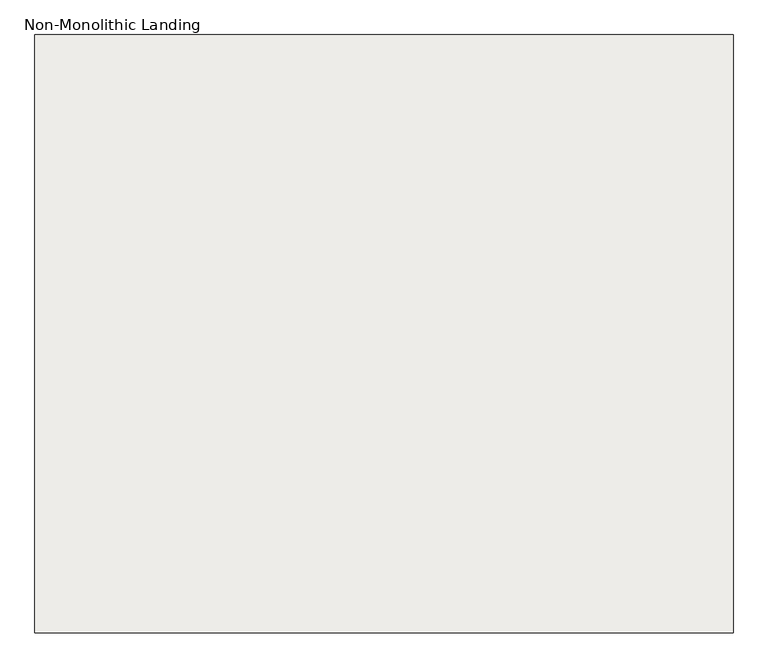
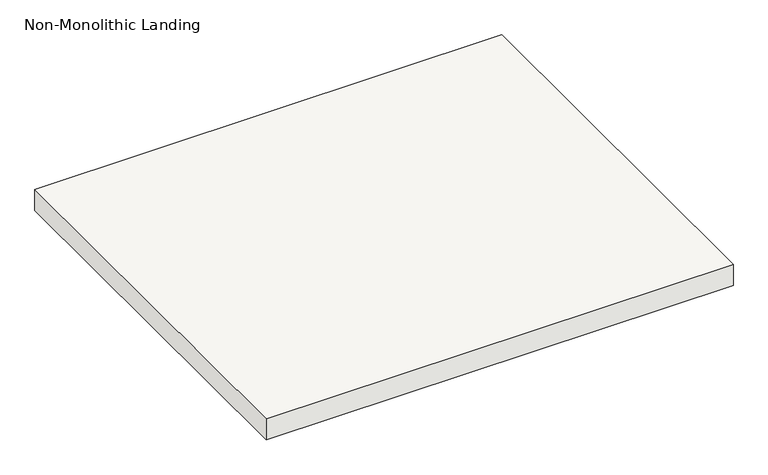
"""IFC4 building model written with IfcOpenShell, lengths in millimetres: slab geometry, Non-Monolithic Landing."""

import ifcopenshell
import ifcopenshell.guid

model = None  # the IFC model being written
_history = None  # IfcOwnerHistory: only IFC2X3 demands one
_inside = {}  # id of a spatial element -> (the spatial element, [elements in it])
_under = {}  # id of a project, library or spatial element -> (it, [spatial elements below it])
_declared = {}  # id of a project -> (the project, [libraries it declares])
_typed = {}  # id of a type object -> (the type object, [elements of that type])
_made_of = {}  # id of a material, layer set ... -> (it, [elements and type objects made of it])


def new_model(schema):
    """Start an empty IFC model of exactly this schema.

    Asked for "IFC4X3", IfcOpenShell would pick the latest addendum, in which some entities
    have other attributes; the version numbers below select the first issue.
    IFC2X3 requires an IfcOwnerHistory on every rooted entity: one is made here for all.
    """
    global model, _history
    if schema == "IFC4X3":
        model = ifcopenshell.file(schema_version=(4, 3, 0, 0))
    else:
        model = ifcopenshell.file(schema=schema)
    _inside.clear()
    _under.clear()
    _declared.clear()
    _typed.clear()
    _made_of.clear()
    _history = None
    if model.schema == "IFC2X3":
        org = make("IfcOrganization", Name="unknown")
        user = make(
            "IfcPersonAndOrganization",
            ThePerson=make("IfcPerson", FamilyName="unknown"),
            TheOrganization=org,
        )
        app = make(
            "IfcApplication",
            ApplicationDeveloper=org,
            Version="unknown",
            ApplicationFullName="unknown",
            ApplicationIdentifier="unknown",
        )
        _history = make(
            "IfcOwnerHistory",
            OwningUser=user,
            OwningApplication=app,
            ChangeAction="ADDED",
            CreationDate=0,
        )
    return model


def make(cls, **values):
    """One entity of the class cls with the attributes given. An attribute that is None is left unset."""
    return model.create_entity(
        cls, **{name: value for name, value in values.items() if value is not None}
    )


def rooted(cls, **values):
    """An entity with a GlobalId (a new one), such as an element, a storey or a relation."""
    return make(cls, GlobalId=ifcopenshell.guid.new(), OwnerHistory=_history, **values)


def si_unit(unit_type, name, prefix=None):
    """IfcSIUnit, for example si_unit("LENGTHUNIT", "METRE", prefix="MILLI")."""
    return make("IfcSIUnit", UnitType=unit_type, Prefix=prefix, Name=name)


def assignment(units):
    """IfcUnitAssignment: the units of a project."""
    return None if units is None else make("IfcUnitAssignment", Units=units)


def point(xyz):
    """IfcCartesianPoint."""
    return None if xyz is None else make("IfcCartesianPoint", Coordinates=xyz)


def direction(xyz):
    """IfcDirection."""
    return None if xyz is None else make("IfcDirection", DirectionRatios=xyz)


def frame(location, z_axis=None, x_axis=None):
    """IfcAxis2Placement3D, a coordinate frame: its origin and axes. An axis left out is left unset."""
    return make(
        "IfcAxis2Placement3D",
        Location=point(location),
        Axis=direction(z_axis),
        RefDirection=direction(x_axis),
    )


def origin():
    """The frame at (0, 0, 0) with its axes left unset."""
    return frame((0.0, 0.0, 0.0))


def place(relative_to, where):
    """IfcLocalPlacement: puts the frame where relative to a parent placement (None: the world)."""
    return make(
        "IfcLocalPlacement", PlacementRelTo=relative_to, RelativePlacement=where
    )


def context(
    kind, dimensions, precision=None, world=None, true_north=None, identifier=None
):
    """IfcGeometricRepresentationContext, for example the 3D "Model" context."""
    return make(
        "IfcGeometricRepresentationContext",
        ContextIdentifier=identifier,
        ContextType=kind,
        CoordinateSpaceDimension=dimensions,
        Precision=precision,
        WorldCoordinateSystem=world,
        TrueNorth=true_north,
    )


def project(units=None, contexts=None):
    """IfcProject with its units and contexts."""
    return rooted(
        "IfcProject",
        Name="project",
        RepresentationContexts=contexts,
        UnitsInContext=assignment(units),
    )


def spatial(cls, under=None, at=None, **own):
    """A site, building, storey or space (cls), placed at a placement, below another one or the project."""
    s = rooted(cls, ObjectPlacement=at, **own)
    if under is not None:
        _under.setdefault(under.id(), (under, []))[1].append(s)
    return s


def polyline(points):
    """IfcPolyline through the points."""
    return make("IfcPolyline", Points=[point(p) for p in points])


def outline(outer, holes=None, kind="AREA"):
    """IfcArbitraryClosedProfileDef: a profile drawn as a closed curve; with holes, ...WithVoids."""
    if holes is None:
        return make("IfcArbitraryClosedProfileDef", ProfileType=kind, OuterCurve=outer)
    return make(
        "IfcArbitraryProfileDefWithVoids",
        ProfileType=kind,
        OuterCurve=outer,
        InnerCurves=holes,
    )


def extrude(swept, where, along, depth):
    """IfcExtrudedAreaSolid: the profile swept, set in the frame where, extruded along a direction by depth."""
    return make(
        "IfcExtrudedAreaSolid",
        SweptArea=swept,
        Position=where,
        ExtrudedDirection=direction(along),
        Depth=depth,
    )


def shape(context_of_items, identifier, shape_type, items):
    """IfcShapeRepresentation: the items that make up one representation, for example the "Body"."""
    return make(
        "IfcShapeRepresentation",
        ContextOfItems=context_of_items,
        RepresentationIdentifier=identifier,
        RepresentationType=shape_type,
        Items=items,
    )


def source(mapping_origin, context_of_items, identifier, shape_type, items):
    """IfcRepresentationMap: a shape defined once, which mapped items show again and again."""
    return make(
        "IfcRepresentationMap",
        MappingOrigin=mapping_origin,
        MappedRepresentation=shape(context_of_items, identifier, shape_type, items),
    )


def transform(
    local_origin,
    x_axis=None,
    y_axis=None,
    z_axis=None,
    scale=None,
    scale2=None,
    scale3=None,
    uniform=True,
):
    """IfcCartesianTransformationOperator3D, or its non-uniform kind. x_axis, y_axis, z_axis: its Axis1, 2, 3."""
    if uniform:
        return make(
            "IfcCartesianTransformationOperator3D",
            Axis1=direction(x_axis),
            Axis2=direction(y_axis),
            LocalOrigin=point(local_origin),
            Scale=scale,
            Axis3=direction(z_axis),
        )
    return make(
        "IfcCartesianTransformationOperator3DnonUniform",
        Axis1=direction(x_axis),
        Axis2=direction(y_axis),
        LocalOrigin=point(local_origin),
        Scale=scale,
        Axis3=direction(z_axis),
        Scale2=scale2,
        Scale3=scale3,
    )


def mapped(mapping_source, mapping_target):
    """IfcMappedItem: shows the shape of a source again, moved by a transform."""
    return make(
        "IfcMappedItem", MappingSource=mapping_source, MappingTarget=mapping_target
    )


def made_of(thing, what):
    """Note that an element or type object is made of a material, layer set ...; save() writes the relation."""
    if what is not None:
        _made_of.setdefault(what.id(), (what, []))[1].append(thing)
    return thing


def element(
    cls,
    number,
    at=None,
    inside=None,
    cuts=None,
    type_object=None,
    material=None,
    context=None,
    identifier="Body",
    shape_type=None,
    held_by="IfcProductDefinitionShape",
    body=None,
    shapes=None,
    **own,
):
    """One element of the class cls, such as IfcWall. Its Tag is "e" and its number.

    at: its placement. inside: the storey or other place that contains it. cuts: it is an
    opening in that element (IfcRelVoidsElement). A single representation is given by context,
    identifier, shape_type and body (its items); several are given by shapes. held_by: the class
    of the entity that holds the representations. save() writes the other relations.
    """
    e = rooted(cls, Tag="e%d" % number, ObjectPlacement=at, **own)
    if body is not None:
        shapes = [shape(context, identifier, shape_type, body)]
    if shapes is not None:
        e.Representation = make(held_by, Representations=shapes)
    if inside is not None:
        _inside.setdefault(inside.id(), (inside, []))[1].append(e)
    if cuts is not None:
        rooted(
            "IfcRelVoidsElement", RelatingBuildingElement=cuts, RelatedOpeningElement=e
        )
    if type_object is not None:
        _typed.setdefault(type_object.id(), (type_object, []))[1].append(e)
    return made_of(e, material)


def aggregate(whole, parts):
    """IfcRelAggregates: a whole, such as a stair, and the parts it consists of."""
    return rooted("IfcRelAggregates", RelatingObject=whole, RelatedObjects=parts)


def save(model, path):
    """Write the relations noted so far, then the file.

    IfcRelAggregates (storeys below a building ...), IfcRelContainedInSpatialStructure (elements
    in a storey), IfcRelDefinesByType, IfcRelAssociatesMaterial and IfcRelDeclares: one each for
    every whole, place, type object, material and project.
    """
    for whole, parts in _under.values():
        aggregate(whole, parts)
    for where, things in _inside.values():
        rooted(
            "IfcRelContainedInSpatialStructure",
            RelatedElements=things,
            RelatingStructure=where,
        )
    for kind, things in _typed.values():
        rooted("IfcRelDefinesByType", RelatedObjects=things, RelatingType=kind)
    for what, things in _made_of.values():
        rooted("IfcRelAssociatesMaterial", RelatedObjects=things, RelatingMaterial=what)
    for by, libraries in _declared.values():
        rooted("IfcRelDeclares", RelatingContext=by, RelatedDefinitions=libraries)
    model.write(path)


def non_monolithic_landing_216da468(model_context):
    return source(origin(), model_context, "Body", "SweptSolid", [
        extrude(outline(polyline([(163490.4025866, -34679.081782), (164557.2025866, -34679.081782), (164557.2025866, -35593.481782), (163490.4025866, -35593.481782), (163490.4025866, -34679.081782)])), frame((0.0, 0.0, 2195.0947368), z_axis=(0.0, 0.0, 1.0), x_axis=(1.0, 0.0, 0.0)), (0.0, 0.0, 1.0), 50.8),
    ])


if __name__ == "__main__":
    model = new_model("IFC4")
    model_context = context("Model", 3, world=origin())
    ifc_project = project(units=[si_unit("LENGTHUNIT", "METRE", prefix="MILLI")], contexts=[model_context])
    site = spatial("IfcSite", under=ifc_project)
    building = spatial("IfcBuilding", under=site)
    placement = place(None, origin())
    non_monolithic_landing_shape = non_monolithic_landing_216da468(model_context)
    element("IfcSlab", 1, ObjectType="Non-Monolithic Landing", at=placement, inside=building, context=model_context, shape_type="MappedRepresentation", body=[
        mapped(non_monolithic_landing_shape, transform((0.0, 0.0, 0.0), x_axis=(1.0, 0.0, 0.0), y_axis=(0.0, 1.0, 0.0), z_axis=(0.0, 0.0, 1.0))),
    ])
    save(model, "model.ifc")
